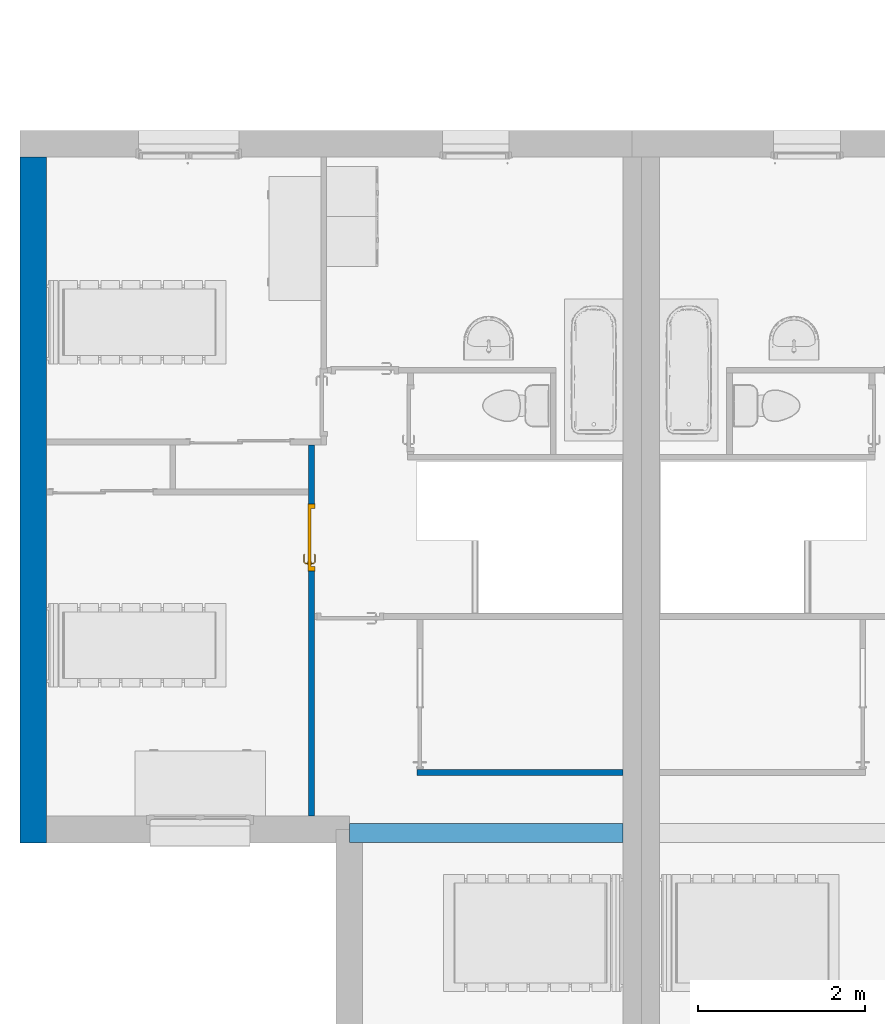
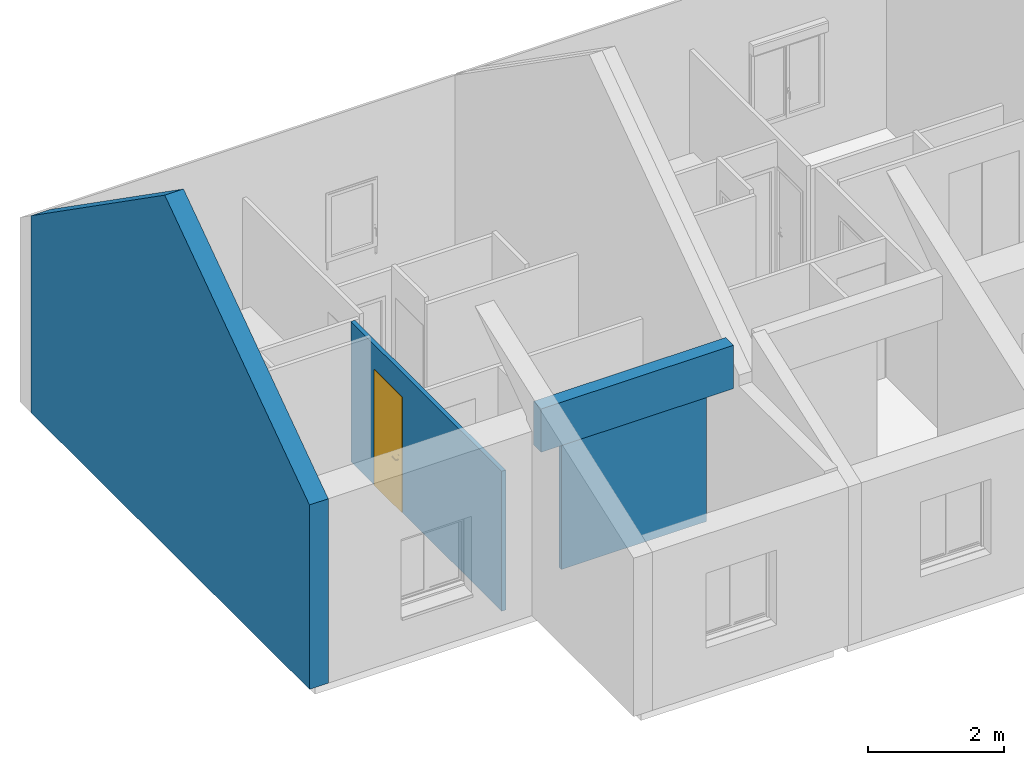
# One storey, part 10 of 61: 4 walls, 1 door, 1 opening.
"""IFC2X3 building model written with IfcOpenShell, lengths in metres."""

from ifc_helpers import new_model, entity, si_unit, converted_unit, derived_unit, direction, frame, frame_2d, origin, place, context, subcontext, project, spatial, polyline, rectangle, extrude, clip, bounded_halfspace, faceted_brep, source, transform, mapped, material, material_list, layer, layer_set, layer_usage, type_object, type_shapes, element, fill, save


model = new_model("IFC2X3")

# Units and contexts
model_context = context("Model", 3, precision=1e-05, world=origin(), true_north=direction((6.12303176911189e-17, 1.0)))
body_context = subcontext(model_context, "Body", "Model", "MODEL_VIEW")
ifc_project = project(units=[si_unit("LENGTHUNIT", "METRE"), si_unit("AREAUNIT", "SQUARE_METRE"), si_unit("VOLUMEUNIT", "CUBIC_METRE"), converted_unit("PLANEANGLEUNIT", "DEGREE", entity("IfcRatioMeasure", 0.0174532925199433), si_unit("PLANEANGLEUNIT", "RADIAN"), dimensions=[0, 0, 0, 0, 0, 0, 0]), si_unit("MASSUNIT", "GRAM", prefix="KILO"), derived_unit("MASSDENSITYUNIT", [(si_unit("MASSUNIT", "GRAM", prefix="KILO"), 1), (si_unit("LENGTHUNIT", "METRE"), -3)]), si_unit("TIMEUNIT", "SECOND"), si_unit("FREQUENCYUNIT", "HERTZ"), si_unit("THERMODYNAMICTEMPERATUREUNIT", "DEGREE_CELSIUS"), derived_unit("THERMALTRANSMITTANCEUNIT", [(si_unit("MASSUNIT", "GRAM", prefix="KILO"), 1), (si_unit("THERMODYNAMICTEMPERATUREUNIT", "KELVIN"), -1), (si_unit("TIMEUNIT", "SECOND"), -3)]), derived_unit("VOLUMETRICFLOWRATEUNIT", [(si_unit("LENGTHUNIT", "METRE"), 3), (si_unit("TIMEUNIT", "SECOND"), -1)]), si_unit("ELECTRICCURRENTUNIT", "AMPERE"), si_unit("ELECTRICVOLTAGEUNIT", "VOLT"), si_unit("POWERUNIT", "WATT"), si_unit("FORCEUNIT", "NEWTON", prefix="KILO"), si_unit("ILLUMINANCEUNIT", "LUX"), si_unit("LUMINOUSFLUXUNIT", "LUMEN"), si_unit("LUMINOUSINTENSITYUNIT", "CANDELA"), derived_unit("USERDEFINED", [(si_unit("MASSUNIT", "GRAM", prefix="KILO"), -1), (si_unit("LENGTHUNIT", "METRE"), -2), (si_unit("TIMEUNIT", "SECOND"), 3), (si_unit("LUMINOUSFLUXUNIT", "LUMEN"), 1)]), derived_unit("LINEARVELOCITYUNIT", [(si_unit("LENGTHUNIT", "METRE"), 1), (si_unit("TIMEUNIT", "SECOND"), -1)]), si_unit("PRESSUREUNIT", "PASCAL"), derived_unit("USERDEFINED", [(si_unit("LENGTHUNIT", "METRE"), -2), (si_unit("MASSUNIT", "GRAM", prefix="KILO"), 1), (si_unit("TIMEUNIT", "SECOND"), -2)])], contexts=[model_context])

# Site, building, storey
site_placement = place(None, origin())
site = spatial("IfcSite", under=ifc_project, at=site_placement, Name="Surface", CompositionType="ELEMENT")
building_placement = place(site_placement, origin())
building = spatial("IfcBuilding", under=site, at=building_placement, CompositionType="ELEMENT")
storey_placement = place(building_placement, frame((0.0, 0.0, 2.82)))
storey = spatial("IfcBuildingStorey", under=building, at=storey_placement, Name="ETAGE", CompositionType="ELEMENT", Elevation=2.82)

# Wall
ifc_material_1 = material(Name="Enduit blanc cassé2")
ifc_layer_1 = layer(ifc_material_1, 0.02)
ifc_material_2 = material(Name="Parpaing")
ifc_layer_2 = layer(ifc_material_2, 0.2)
ifc_material_3 = material(Name="Isolant")
ifc_layer_3 = layer(ifc_material_3, 0.1)
ifc_layer_set_1 = layer_set([ifc_layer_1, ifc_layer_2, ifc_layer_3], Name="Mur de base:Ext. Parpaing 20 + Isolant 10 enduit blanc cassé")
ifc_layer_usage_1 = layer_usage(ifc_layer_set_1, "AXIS2", "POSITIVE", -0.16)
wall_type_1 = type_object("IfcWallType", Name="Mur de base:Ext. Parpaing 20 + Isolant 10 enduit blanc cassé", PredefinedType="STANDARD", material=ifc_layer_set_1)
wall_1_placement = place(storey_placement, frame((61.5463634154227, 88.1077566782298, 0.0), z_axis=(0.0, 0.0, 1.0), x_axis=(0.0, -1.0, 0.0)))
element("IfcWallStandardCase", 1, at=wall_1_placement, inside=storey, type_object=wall_type_1, material=ifc_layer_usage_1, Name="Mur de base:Ext. Parpaing 20 + Isolant 10 enduit blanc cassé", ObjectType="Mur de base:Ext. Parpaing 20 + Isolant 10 enduit blanc cassé", context=body_context, shape_type="Clipping", body=[
    clip(clip(extrude(rectangle(XDim=8.22, YDim=0.319999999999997, at=frame_2d((4.11, 2.692290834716e-15), x_axis=(-1.0, 0.0))), origin(), (0.0, 0.0, 1.0), 6.30988618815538), bounded_halfspace(frame((0.0, -0.16, 3.5440664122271), z_axis=(-0.573576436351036, 0.0, 0.819152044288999), x_axis=(0.0, -1.0, 0.0)), False, frame((0.0, -0.16, 3.5440664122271)), polyline([(0.0, 0.0), (3.95, 0.0), (3.95, 0.319999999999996), (0.0, 0.319999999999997), (0.0, 0.0)]))), bounded_halfspace(frame((3.95, -0.16, 6.30988618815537), z_axis=(0.573576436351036, 0.0, 0.819152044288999), x_axis=(0.0, 1.0, 0.0)), False, frame((3.95, -0.16, 6.30988618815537)), polyline([(0.0, 0.0), (4.27, 0.0), (4.26999999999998, 0.320000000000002), (3.94999999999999, 0.319999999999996), (0.0, 0.319999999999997), (0.0, 0.0)]))),
])

# Wall, opening, door
ifc_material_4 = material(Name="Peinture - Blanc")
ifc_layer_4 = layer(ifc_material_4, 0.07)
ifc_layer_set_2 = layer_set([ifc_layer_4], Name="Mur de base:Int.  Platre 70 mm en blanc")
ifc_layer_usage_2 = layer_usage(ifc_layer_set_2, "AXIS2", "POSITIVE", -0.035)
wall_type_2 = type_object("IfcWallType", Name="Mur de base:Int.  Platre 70 mm en blanc", PredefinedType="STANDARD", material=ifc_layer_set_2)
wall_2_placement = place(storey_placement, frame((64.8796263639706, 80.2077566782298, 0.0), z_axis=(0.0, 0.0, 1.0), x_axis=(0.0, 1.0, 0.0)))
wall_2 = element("IfcWallStandardCase", 2, at=wall_2_placement, inside=storey, type_object=wall_type_2, material=ifc_layer_usage_2, Name="Mur de base:Int.  Platre 70 mm en blanc", ObjectType="Mur de base:Int.  Platre 70 mm en blanc", context=body_context, shape_type="SweptSolid", body=[
    extrude(rectangle(XDim=4.44999999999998, YDim=0.0700000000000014, at=frame_2d((2.22499999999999, -1.65492619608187e-15), x_axis=(-1.0, 0.0))), origin(), (0.0, 0.0, 1.0), 2.52),
])
opening_placement = place(wall_2_placement, frame((2.94000000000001, -0.0350000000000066, 0.0)))
opening = element("IfcOpeningElement", 3, at=opening_placement, cuts=wall_2, Name="FR_Simple (R):73 x 204 - (70):1", ObjectType="Opening", context=body_context, shape_type="SweptSolid", body=[
    extrude(rectangle(XDim=2.075, YDim=0.799999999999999, at=frame_2d((1.0375, 0.4), x_axis=(1.0, 0.0))), frame((0.0, 0.0, 0.0), z_axis=(0.0, 1.0, 0.0), x_axis=(0.0, 0.0, 1.0)), (0.0, 0.0, 1.0), 0.07),
])
ifc_material_5 = material(Name="Poignée Porte")
ifc_material_6 = material(Name="Dormants Portes")
ifc_material_7 = material(Name="Panneaux Portes")
ifc_material_list_1 = material_list([ifc_material_5, ifc_material_6, ifc_material_7])
ifc_material_list_2 = material_list([ifc_material_5, ifc_material_6, ifc_material_7])
door_style = type_object("IfcDoorStyle", Name="73 x 204 - (70)", ConstructionType="NOTDEFINED", OperationType="SINGLE_SWING_RIGHT", ParameterTakesPrecedence=False, Sizeable=False, material=ifc_material_list_2)
shared_shape = source(origin(), body_context, "Body", "Brep", [
    faceted_brep([(0.710000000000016, -0.0130000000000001, 0.764641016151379), (0.720352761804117, -0.0130000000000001, 0.766003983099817), (0.730000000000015, -0.0130000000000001, 0.770000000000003), (0.730000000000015, -0.0130000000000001, 0.980000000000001), (0.720352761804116, -0.0130000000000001, 0.983996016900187), (0.710000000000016, -0.0130000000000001, 0.985358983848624), (0.699647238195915, -0.0130000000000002, 0.983996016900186), (0.690000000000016, -0.0130000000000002, 0.980000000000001), (0.690000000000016, -0.0130000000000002, 0.770000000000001), (0.699647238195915, -0.0130000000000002, 0.766003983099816), (0.730000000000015, -0.00800000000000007, 0.980000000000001), (0.730000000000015, -0.00800000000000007, 0.770000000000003), (0.720352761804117, -0.0080000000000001, 0.766003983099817), (0.710000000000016, -0.00800000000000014, 0.764641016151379), (0.699647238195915, -0.00800000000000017, 0.766003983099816), (0.690000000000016, -0.00800000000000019, 0.770000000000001), (0.690000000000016, -0.00800000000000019, 0.980000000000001), (0.699647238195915, -0.00800000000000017, 0.983996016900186), (0.710000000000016, -0.00800000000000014, 0.985358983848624), (0.720352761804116, -0.0080000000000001, 0.983996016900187)], [[[0, 1, 2, 3, 4, 5, 6, 7, 8, 9]], [[10, 11, 12, 13, 14, 15, 16, 17, 18, 19]], [[1, 12, 11, 2]], [[0, 13, 12, 1]], [[9, 14, 13, 0]], [[9, 8, 15, 14]], [[15, 8, 7, 16]], [[6, 17, 16, 7]], [[5, 18, 17, 6]], [[4, 19, 18, 5]], [[4, 3, 10, 19]], [[10, 3, 2, 11]]]),
    faceted_brep([(0.730000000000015, 0.0319999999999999, 0.770000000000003), (0.730000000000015, 0.0319999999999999, 0.980000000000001), (0.720352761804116, 0.0319999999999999, 0.983996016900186), (0.710000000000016, 0.0319999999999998, 0.985358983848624), (0.699647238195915, 0.0319999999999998, 0.983996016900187), (0.690000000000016, 0.0319999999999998, 0.980000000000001), (0.690000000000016, 0.0319999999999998, 0.770000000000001), (0.699647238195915, 0.0319999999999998, 0.766003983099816), (0.710000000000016, 0.0319999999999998, 0.764641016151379), (0.720352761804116, 0.0319999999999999, 0.766003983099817), (0.710000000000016, 0.0369999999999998, 0.985358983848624), (0.720352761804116, 0.0369999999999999, 0.983996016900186), (0.730000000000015, 0.0369999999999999, 0.980000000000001), (0.730000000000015, 0.0369999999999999, 0.770000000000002), (0.720352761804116, 0.0369999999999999, 0.766003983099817), (0.710000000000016, 0.0369999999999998, 0.764641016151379), (0.699647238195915, 0.0369999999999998, 0.766003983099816), (0.690000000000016, 0.0369999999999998, 0.770000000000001), (0.690000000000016, 0.0369999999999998, 0.980000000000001), (0.699647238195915, 0.0369999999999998, 0.983996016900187)], [[[0, 1, 2, 3, 4, 5, 6, 7, 8, 9]], [[10, 11, 12, 13, 14, 15, 16, 17, 18, 19]], [[4, 19, 18, 5]], [[3, 10, 19, 4]], [[2, 11, 10, 3]], [[2, 1, 12, 11]], [[12, 1, 0, 13]], [[9, 14, 13, 0]], [[8, 15, 14, 9]], [[7, 16, 15, 8]], [[7, 6, 17, 16]], [[17, 6, 5, 18]]]),
    faceted_brep([(0.707974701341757, -0.0130000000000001, 0.907780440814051), (0.712025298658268, -0.0130000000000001, 0.907780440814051), (0.716000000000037, -0.0130000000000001, 0.906999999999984), (0.716000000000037, -0.0130000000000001, 0.892999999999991), (0.712025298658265, -0.0130000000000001, 0.892219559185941), (0.707974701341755, -0.0130000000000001, 0.89221955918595), (0.703999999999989, -0.0130000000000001, 0.893000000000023), (0.703999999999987, -0.0130000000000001, 0.90699999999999), (0.712025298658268, -0.0390045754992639, 0.907780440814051), (0.716000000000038, -0.0406509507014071, 0.906999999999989), (0.707974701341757, -0.0373267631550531, 0.907780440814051), (0.694298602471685, -0.0510028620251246, 0.907780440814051), (0.695976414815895, -0.0550534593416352, 0.907780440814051), (0.609142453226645, -0.0550534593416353, 0.90778044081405), (0.610820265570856, -0.0510028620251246, 0.90778044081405), (0.604342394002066, -0.0445249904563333, 0.90778044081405), (0.601478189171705, -0.0473891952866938, 0.90778044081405), (0.703999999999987, -0.0356803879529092, 0.90699999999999), (0.703999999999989, -0.0356803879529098, 0.893000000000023), (0.707974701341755, -0.0373267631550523, 0.89221955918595), (0.712025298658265, -0.0390045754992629, 0.89221955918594), (0.695976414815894, -0.0550534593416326, 0.89221955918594), (0.694298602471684, -0.0510028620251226, 0.89221955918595), (0.610820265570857, -0.0510028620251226, 0.89221955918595), (0.609142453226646, -0.0550534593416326, 0.89221955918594), (0.601478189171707, -0.0473891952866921, 0.89221955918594), (0.604342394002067, -0.044524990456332, 0.89221955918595), (0.716000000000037, -0.0406509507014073, 0.892999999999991), (0.69762279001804, -0.059028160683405, 0.906999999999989), (0.692652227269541, -0.0470281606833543, 0.90699999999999), (0.692652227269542, -0.0470281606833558, 0.893000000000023), (0.697622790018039, -0.0590281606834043, 0.892999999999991), (0.65255943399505, -0.053182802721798, 0.907878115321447), (0.657692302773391, -0.0590281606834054, 0.906999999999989), (0.607496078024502, -0.0590281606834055, 0.906999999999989), (0.652559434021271, -0.0470281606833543, 0.90699999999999), (0.612466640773, -0.0470281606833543, 0.906999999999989), (0.652559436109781, -0.0470281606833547, 0.893000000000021), (0.612466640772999, -0.0470281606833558, 0.893000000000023), (0.652559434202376, -0.0531828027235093, 0.892121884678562), (0.647426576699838, -0.0590281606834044, 0.892999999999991), (0.607496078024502, -0.0590281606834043, 0.892999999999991), (0.607152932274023, -0.0417144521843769, 0.89300000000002), (0.598667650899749, -0.0501997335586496, 0.892999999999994), (0.598667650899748, -0.0501997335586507, 0.906999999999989), (0.607152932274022, -0.0417144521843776, 0.906999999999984)], [[[0, 1, 2, 3, 4, 5, 6, 7]], [[2, 1, 8, 9]], [[1, 0, 10, 11, 12, 8]], [[13, 14, 15, 16]], [[0, 7, 17, 10]], [[18, 17, 7, 6]], [[5, 19, 18, 6]], [[5, 4, 20, 21, 22, 19]], [[23, 24, 25, 26]], [[3, 27, 20, 4]], [[9, 27, 3, 2]], [[9, 8, 12, 28]], [[10, 17, 29, 11]], [[30, 29, 17, 18]], [[18, 19, 22, 30]], [[20, 27, 31, 21]], [[28, 31, 27, 9]], [[12, 32, 33]], [[13, 33, 32]], [[33, 28, 12]], [[33, 13, 34]], [[11, 35, 32]], [[32, 12, 11]], [[32, 35, 14]], [[35, 11, 29]], [[36, 14, 35]], [[13, 32, 14]], [[30, 37, 38, 36, 35, 29]], [[39, 37, 22]], [[40, 41, 24]], [[40, 21, 31]], [[39, 21, 40]], [[23, 37, 39]], [[39, 24, 23]], [[30, 22, 37]], [[37, 23, 38]], [[21, 39, 22]], [[24, 39, 40]], [[31, 28, 33, 34, 41, 40]], [[42, 26, 25, 43, 44, 16, 15, 45]], [[13, 16, 44, 34]], [[36, 45, 15, 14]], [[42, 45, 36, 38]], [[38, 23, 26, 42]], [[24, 41, 43, 25]], [[44, 43, 41, 34]]]),
    faceted_brep([(0.712025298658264, 0.0369999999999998, 0.907780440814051), (0.707974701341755, 0.0369999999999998, 0.907780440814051), (0.703999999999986, 0.0369999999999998, 0.90699999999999), (0.703999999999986, 0.0369999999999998, 0.89300000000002), (0.707974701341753, 0.0369999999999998, 0.892219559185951), (0.712025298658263, 0.0369999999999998, 0.892219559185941), (0.716000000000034, 0.0369999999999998, 0.892999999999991), (0.716000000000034, 0.0369999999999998, 0.90699999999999), (0.703999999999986, 0.0594852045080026, 0.90699999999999), (0.703999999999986, 0.0594852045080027, 0.89300000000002), (0.707974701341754, 0.0611315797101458, 0.907780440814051), (0.712025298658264, 0.0628093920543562, 0.907780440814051), (0.695838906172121, 0.0789957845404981, 0.907780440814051), (0.69416109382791, 0.0749451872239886, 0.907780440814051), (0.610793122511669, 0.0749451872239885, 0.907780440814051), (0.609115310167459, 0.0789957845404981, 0.907780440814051), (0.601451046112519, 0.071331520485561, 0.907780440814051), (0.604315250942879, 0.0684673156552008, 0.907780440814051), (0.716000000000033, 0.0644557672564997, 0.90699999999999), (0.716000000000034, 0.0644557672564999, 0.892999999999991), (0.712025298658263, 0.0628093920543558, 0.892219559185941), (0.707974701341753, 0.0611315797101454, 0.892219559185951), (0.69416109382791, 0.0749451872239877, 0.892219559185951), (0.69583890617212, 0.0789957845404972, 0.892219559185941), (0.609115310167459, 0.0789957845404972, 0.89221955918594), (0.610793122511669, 0.0749451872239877, 0.89221955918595), (0.60431525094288, 0.0684673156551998, 0.89221955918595), (0.60145104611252, 0.07133152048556, 0.89221955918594), (0.692514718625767, 0.07097048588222, 0.89300000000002), (0.692514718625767, 0.0709704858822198, 0.90699999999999), (0.697485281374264, 0.0829704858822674, 0.90699999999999), (0.697485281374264, 0.082970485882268, 0.892999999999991), (0.652477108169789, 0.0709704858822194, 0.90699999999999), (0.612439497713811, 0.0709704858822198, 0.90699999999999), (0.612439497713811, 0.0709704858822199, 0.89300000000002), (0.652477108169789, 0.0709704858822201, 0.89300000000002), (0.652477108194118, 0.0771249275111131, 0.907878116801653), (0.647399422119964, 0.0829704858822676, 0.90699999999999), (0.607468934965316, 0.0829704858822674, 0.90699999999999), (0.657554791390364, 0.0829704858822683, 0.892999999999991), (0.607468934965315, 0.082970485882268, 0.892999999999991), (0.65247710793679, 0.0771249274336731, 0.892121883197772), (0.598640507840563, 0.0741420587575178, 0.90699999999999), (0.598640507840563, 0.074142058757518, 0.892999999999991), (0.607125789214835, 0.0656567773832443, 0.89300000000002), (0.607125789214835, 0.0656567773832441, 0.90699999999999)], [[[0, 1, 2, 3, 4, 5, 6, 7]], [[8, 9, 3, 2]], [[1, 10, 8, 2]], [[1, 0, 11, 12, 13, 10]], [[14, 15, 16, 17]], [[7, 18, 11, 0]], [[18, 7, 6, 19]], [[6, 5, 20, 19]], [[5, 4, 21, 22, 23, 20]], [[24, 25, 26, 27]], [[4, 3, 9, 21]], [[28, 9, 8, 29]], [[8, 10, 13, 29]], [[18, 30, 12, 11]], [[31, 30, 18, 19]], [[19, 20, 23, 31]], [[21, 9, 28, 22]], [[28, 29, 32, 33, 34, 35]], [[36, 32, 13]], [[37, 38, 15]], [[37, 12, 30]], [[36, 12, 37]], [[14, 32, 36]], [[36, 15, 14]], [[29, 13, 32]], [[32, 14, 33]], [[12, 36, 13]], [[15, 36, 37]], [[30, 31, 39, 40, 38, 37]], [[23, 41, 39]], [[24, 39, 41]], [[39, 31, 23]], [[39, 24, 40]], [[22, 35, 41]], [[41, 23, 22]], [[41, 35, 25]], [[35, 22, 28]], [[34, 25, 35]], [[24, 41, 25]], [[17, 16, 42, 43, 27, 26, 44, 45]], [[44, 34, 33, 45]], [[33, 14, 17, 45]], [[15, 38, 42, 16]], [[42, 38, 40, 43]], [[24, 27, 43, 40]], [[34, 44, 26, 25]]]),
    faceted_brep([(0.800000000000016, 0.0, 0.0), (0.810000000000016, 0.0, 0.0), (0.810000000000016, -0.00799999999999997, 0.0), (0.765000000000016, -0.00799999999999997, 0.0), (0.765000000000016, 0.032, 0.0), (0.750000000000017, 0.032, 0.0), (0.750000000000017, 0.0780000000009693, 0.0), (0.810000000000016, 0.0780000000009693, 0.0), (0.810000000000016, 0.0700000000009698, 0.0), (0.800000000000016, 0.0700000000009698, 0.0), (0.800000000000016, 0.0700000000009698, 2.075), (0.800000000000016, 0.0, 2.075), (0.810000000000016, 0.0700000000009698, 2.085), (-0.00999999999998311, 0.0700000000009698, 2.085), (-0.00999999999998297, 0.0700000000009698, 0.0), (0.0, 0.0700000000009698, 0.0), (0.0, 0.0700000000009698, 2.075), (0.810000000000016, 0.0780000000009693, 2.085), (0.750000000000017, 0.0780000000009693, 2.025), (0.0500000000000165, 0.0780000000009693, 2.025), (0.0500000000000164, 0.0780000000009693, 0.0), (-0.00999999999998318, 0.0780000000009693, 0.0), (-0.00999999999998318, 0.0780000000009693, 2.085), (0.750000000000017, 0.032, 2.025), (0.765000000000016, 0.032, 2.04), (0.0350000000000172, 0.032, 2.04), (0.0350000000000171, 0.032, 0.0), (0.0500000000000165, 0.032, 0.0), (0.0500000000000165, 0.032, 2.025), (0.765000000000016, -0.00799999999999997, 2.04), (0.810000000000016, -0.00799999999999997, 2.085), (-0.00999999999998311, -0.00799999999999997, 2.085), (-0.0099999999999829, -0.00799999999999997, 0.0), (0.0350000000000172, -0.00799999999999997, 0.0), (0.0350000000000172, -0.00799999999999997, 2.04), (0.810000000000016, 0.0, 2.085), (0.0, 0.0, 2.075), (0.0, 0.0, 0.0), (-0.00999999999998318, 0.0, 0.0), (-0.00999999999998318, 0.0, 2.085)], [[[0, 1, 2, 3, 4, 5, 6, 7, 8, 9]], [[9, 10, 11, 0]], [[8, 12, 13, 14, 15, 16, 10, 9]], [[7, 17, 12, 8]], [[6, 18, 19, 20, 21, 22, 17, 7]], [[5, 23, 18, 6]], [[4, 24, 25, 26, 27, 28, 23, 5]], [[3, 29, 24, 4]], [[2, 30, 31, 32, 33, 34, 29, 3]], [[1, 35, 30, 2]], [[0, 11, 36, 37, 38, 39, 35, 1]], [[10, 16, 36, 11]], [[17, 22, 13, 12]], [[23, 28, 19, 18]], [[29, 34, 25, 24]], [[35, 39, 31, 30]], [[37, 15, 14, 21, 20, 27, 26, 33, 32, 38]], [[16, 15, 37, 36]], [[22, 21, 14, 13]], [[28, 27, 20, 19]], [[34, 33, 26, 25]], [[39, 38, 32, 31]]]),
    faceted_brep([(0.765000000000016, -0.00799999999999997, 2.04), (0.0350000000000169, -0.00799999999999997, 2.04), (0.0350000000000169, -0.00799999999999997, 0.0), (0.765000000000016, -0.00799999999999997, 0.0), (0.765000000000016, 0.032, 2.04), (0.765000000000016, 0.032, 0.0), (0.0350000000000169, 0.032, 0.0), (0.0350000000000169, 0.032, 2.04)], [[[0, 1, 2, 3]], [[4, 5, 6, 7]], [[3, 5, 4, 0]], [[2, 6, 5, 3]], [[1, 7, 6, 2]], [[0, 4, 7, 1]]]),
])
type_shapes(door_style, [shared_shape])
door_placement = place(opening_placement, frame((0.800000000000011, 0.0700000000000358, 0.0), z_axis=(0.0, 0.0, 1.0), x_axis=(-1.0, 0.0, 0.0)))
door = element("IfcDoor", 4, at=door_placement, inside=storey, type_object=door_style, material=ifc_material_list_1, Name="FR_Simple (R):73 x 204 - (70)", ObjectType="FR_Simple (R):73 x 204 - (70)", OverallHeight=2.075, OverallWidth=0.800000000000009, context=body_context, shape_type="MappedRepresentation", body=[
    mapped(shared_shape, transform((0.0, 0.0, 0.0), scale=1.0)),
])
fill(opening, door)

# Walls
ifc_layer_usage_3 = layer_usage(ifc_layer_set_2, "AXIS2", "POSITIVE", -0.035)
wall_3_placement = place(storey_placement, frame((66.1446263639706, 80.7327566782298, 0.0)))
element("IfcWallStandardCase", 5, at=wall_3_placement, inside=storey, type_object=wall_type_2, material=ifc_layer_usage_3, Name="Mur de base:Int.  Platre 70 mm en blanc", ObjectType="Mur de base:Int.  Platre 70 mm en blanc", context=body_context, shape_type="SweptSolid", body=[
    extrude(rectangle(XDim=2.47038340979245, YDim=0.0699999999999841, at=frame_2d((1.23519170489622, 5.27355936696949e-16), x_axis=(-1.0, 0.0))), origin(), (0.0, 0.0, 1.0), 2.52),
])
ifc_layer_5 = layer(ifc_material_1, 0.015)
ifc_layer_6 = layer(ifc_material_2, 0.2)
ifc_layer_7 = layer(ifc_material_1, 0.015)
ifc_layer_set_3 = layer_set([ifc_layer_5, ifc_layer_6, ifc_layer_7], Name="Mur de base:Ext. Parpaing 20 + 2 x 1.5")
ifc_layer_usage_4 = layer_usage(ifc_layer_set_3, "AXIS2", "POSITIVE", -0.115)
wall_type_3 = type_object("IfcWallType", Name="Mur de base:Ext. Parpaing 20 + 2 x 1.5", PredefinedType="STANDARD", material=ifc_layer_set_3)
wall_4_placement = place(storey_placement, frame((65.3346263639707, 80.0077566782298, 2.88288676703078)))
element("IfcWallStandardCase", 6, at=wall_4_placement, inside=storey, type_object=wall_type_3, material=ifc_layer_usage_4, Name="Mur de base:Ext. Parpaing 20 + 2 x 1.5", ObjectType="Mur de base:Ext. Parpaing 20 + 2 x 1.5", context=body_context, shape_type="SweptSolid", body=[
    extrude(rectangle(XDim=3.28038340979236, YDim=0.230000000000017, at=frame_2d((1.64019170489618, -1.90819582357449e-15), x_axis=(-1.0, 0.0))), origin(), (0.0, 0.0, 1.0), 0.78),
])

save(model, "model.ifc")
